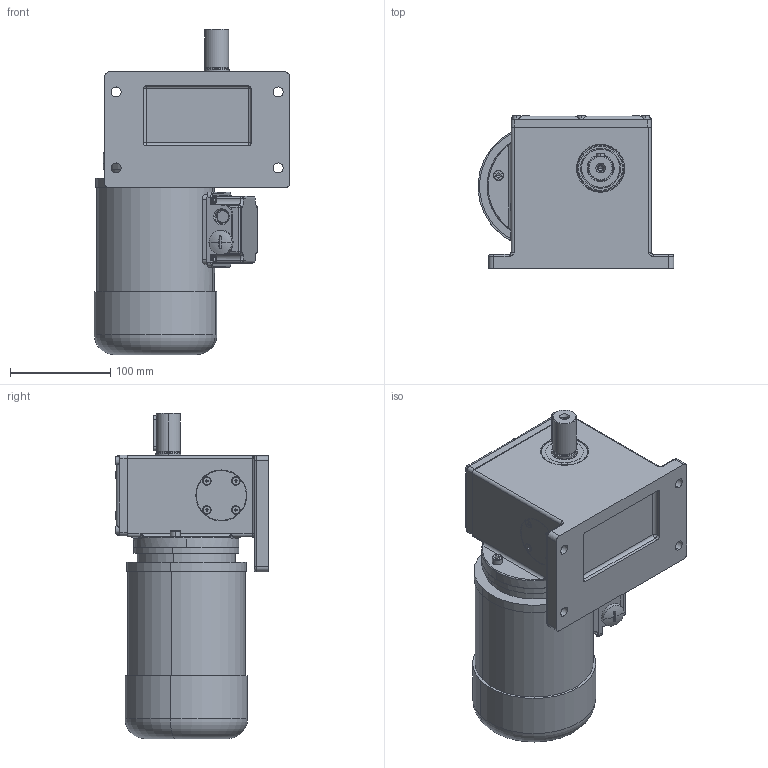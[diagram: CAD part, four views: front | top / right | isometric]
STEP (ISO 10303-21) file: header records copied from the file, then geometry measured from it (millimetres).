
FILE_DESCRIPTION (( 'STEP AP214' ), '1' );
FILE_NAME ('SN7S_120W_Drehstrom-Motor.STEP', '2022-08-25T10:30:05', ( '' ), ( '' ), 'SwSTEP 2.0', 'SolidWorks 2021', '' );
FILE_SCHEMA (( 'AUTOMOTIVE_DESIGN' ));
Length unit declared in the file: millimetre
Products named in the file (16): slotted cheese head screw_iso_ISO 1207 - M5 x 6 - 6C; SN7S_3D-Export; SN7S_120W_Drehstrom-Motor; 01-D-001_3D_Export; socket set screw flat point_iso_ISO 4026 - M6 x 35-C; hexalobular socket cheese head_iso_ISO 14580 - M5 x 16 x 14,4 - 4.8-C; U-Seal Ring Ø5; socket head cap screw_iso_ISO 4762 M6 x 22 - 22C; 07-D-012_3D_Export; socket head cap screw_iso_ISO 4762 M6 x 30 - 30C; socket countersunk head screw_iso_ISO 10642 - M4 x 10 - 10C; 07-W-003_3D-Export; 07-G-010_3D-Export; NBR_WDR_25x47x7; PF_A8x7x35; 07-M-037 I 120W_1400Upm
Assembly tree (30 placements, depth 3):
  SN7S_120W_Drehstrom-Motor
    SN7S_3D-Export
      07-G-010_3D-Export
      07-D-012_3D_Export
      01-D-001_3D_Export  x2
      hexalobular socket cheese head_iso_ISO 14580 - M5 x 16 x 14,4 - 4.8-C  x6
      slotted cheese head screw_iso_ISO 1207 - M5 x 6 - 6C  x2
      U-Seal Ring Ø5  x2
      socket countersunk head screw_iso_ISO 10642 - M4 x 10 - 10C  x8
      socket head cap screw_iso_ISO 4762 M6 x 22 - 22C
      socket head cap screw_iso_ISO 4762 M6 x 30 - 30C
      socket set screw flat point_iso_ISO 4026 - M6 x 35-C
      NBR_WDR_25x47x7
      07-W-003_3D-Export
      PF_A8x7x35
    07-M-037 I 120W_1400Upm
Bounding box: 195.27 x 152.65 x 325 mm (x, y, z)
Volume: 4212379.7 mm3; surface area: 304930.6 mm2
Topology: 30 solids, 30 shells, 1166 faces, 2713 edges, 1599 vertices
Faces by surface type: plane 391, cylinder 339, cone 232, torus 143, sphere 32, bspline 29
Entity records: 25990 total; most frequent: CARTESIAN_POINT 6436, DIRECTION 4251, ORIENTED_EDGE 3726, EDGE_CURVE 1863, AXIS2_PLACEMENT_3D 1784, VERTEX_POINT 1161, CIRCLE 979, EDGE_LOOP 888
